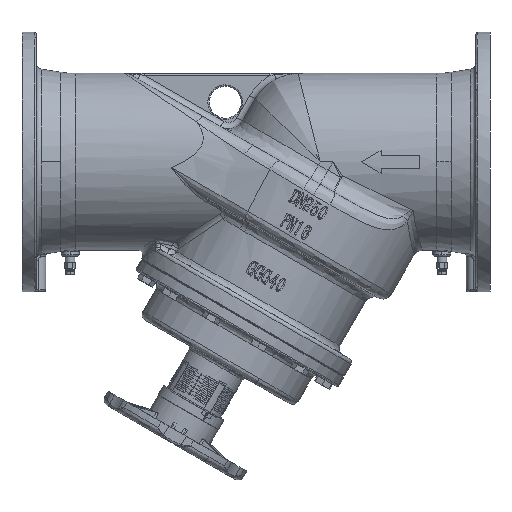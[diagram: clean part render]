
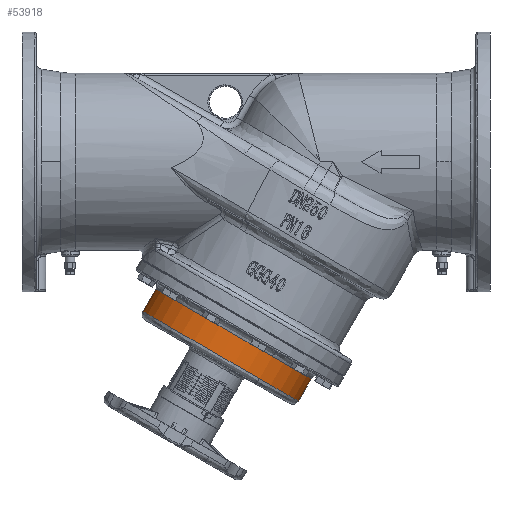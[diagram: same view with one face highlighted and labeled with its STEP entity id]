
A CAD part, front view. The second image highlights one B-rep face of the part: STEP entity #53918.
In plain terms, the highlighted cylindrical face has radius 140 mm (diameter 280 mm), a partial arc.
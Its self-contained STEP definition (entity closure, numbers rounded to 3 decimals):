
#1132 = DIRECTION ( 'NONE',  ( 0.866, 0., -0.5 ) ) ;
#22149 = CIRCLE ( 'NONE', #241825, 140. ) ;
#22217 = AXIS2_PLACEMENT_3D ( 'NONE', #281321, #75338, #280211 ) ;
#27751 = ORIENTED_EDGE ( 'NONE', *, *, #103261, .T. ) ;
#31356 = EDGE_CURVE ( 'NONE', #181069, #204085, #247571, .T. ) ;
#36290 = CARTESIAN_POINT ( 'NONE',  ( -228.801, -20.889, 527.064 ) ) ;
#37004 = AXIS2_PLACEMENT_3D ( 'NONE', #80980, #282604, #306965 ) ;
#42172 = CARTESIAN_POINT ( 'NONE',  ( -188.179, -142.133, 457.423 ) ) ;
#44632 = ORIENTED_EDGE ( 'NONE', *, *, #55653, .T. ) ;
#53918 = ADVANCED_FACE ( 'NONE', ( #235481 ), #239288, .T. ) ;
#55653 = EDGE_CURVE ( 'NONE', #301695, #278472, #195454, .T. ) ;
#59165 = ORIENTED_EDGE ( 'NONE', *, *, #257037, .F. ) ;
#63289 = EDGE_LOOP ( 'NONE', ( #59165, #27751, #312180, #220607, #44632, #225090 ) ) ;
#66802 = CARTESIAN_POINT ( 'NONE',  ( -127.557, -20.889, 422.423 ) ) ;
#67881 = DIRECTION ( 'NONE',  ( 0.5, 0., 0.866 ) ) ;
#68332 = AXIS2_PLACEMENT_3D ( 'NONE', #167549, #67881, #115513 ) ;
#75338 = DIRECTION ( 'NONE',  ( 0.5, 0., 0.866 ) ) ;
#80980 = CARTESIAN_POINT ( 'NONE',  ( -228.801, -20.889, 527.064 ) ) ;
#87267 = DIRECTION ( 'NONE',  ( -0.866, 0., 0.5 ) ) ;
#88846 = VECTOR ( 'NONE', #320205, 1000. ) ;
#90557 = DIRECTION ( 'NONE',  ( -0.5, 0., -0.866 ) ) ;
#103261 = EDGE_CURVE ( 'NONE', #137539, #181069, #22149, .T. ) ;
#114222 = CARTESIAN_POINT ( 'NONE',  ( -370.044, -20.889, 562.423 ) ) ;
#115513 = DIRECTION ( 'NONE',  ( 0.866, 0., -0.5 ) ) ;
#137539 = VERTEX_POINT ( 'NONE', #162118 ) ;
#149964 = CIRCLE ( 'NONE', #37004, 140. ) ;
#162118 = CARTESIAN_POINT ( 'NONE',  ( -370.044, -20.889, 562.423 ) ) ;
#163224 = VERTEX_POINT ( 'NONE', #292378 ) ;
#164305 = CARTESIAN_POINT ( 'NONE',  ( -168.179, -142.133, 492.064 ) ) ;
#167549 = CARTESIAN_POINT ( 'NONE',  ( -248.801, -20.889, 492.423 ) ) ;
#181069 = VERTEX_POINT ( 'NONE', #42172 ) ;
#188697 = VECTOR ( 'NONE', #243941, 1000. ) ;
#195454 = CIRCLE ( 'NONE', #276430, 140. ) ;
#204085 = VERTEX_POINT ( 'NONE', #289718 ) ;
#211472 = CARTESIAN_POINT ( 'NONE',  ( -107.557, -20.889, 457.064 ) ) ;
#212516 = LINE ( 'NONE', #66802, #188697 ) ;
#220607 = ORIENTED_EDGE ( 'NONE', *, *, #271806, .T. ) ;
#225090 = ORIENTED_EDGE ( 'NONE', *, *, #267213, .T. ) ;
#232618 = DIRECTION ( 'NONE',  ( 0.5, 0., 0.866 ) ) ;
#235481 = FACE_OUTER_BOUND ( 'NONE', #63289, .T. ) ;
#239288 = CYLINDRICAL_SURFACE ( 'NONE', #68332, 140. ) ;
#241825 = AXIS2_PLACEMENT_3D ( 'NONE', #282506, #232618, #1132 ) ;
#243941 = DIRECTION ( 'NONE',  ( 0.5, 0., 0.866 ) ) ;
#247407 = LINE ( 'NONE', #114222, #88846 ) ;
#247571 = CIRCLE ( 'NONE', #22217, 140. ) ;
#257037 = EDGE_CURVE ( 'NONE', #137539, #163224, #247407, .T. ) ;
#267213 = EDGE_CURVE ( 'NONE', #278472, #163224, #149964, .T. ) ;
#271806 = EDGE_CURVE ( 'NONE', #204085, #301695, #212516, .T. ) ;
#276430 = AXIS2_PLACEMENT_3D ( 'NONE', #36290, #90557, #87267 ) ;
#278472 = VERTEX_POINT ( 'NONE', #164305 ) ;
#280211 = DIRECTION ( 'NONE',  ( 0.866, 0., -0.5 ) ) ;
#281321 = CARTESIAN_POINT ( 'NONE',  ( -248.801, -20.889, 492.423 ) ) ;
#282506 = CARTESIAN_POINT ( 'NONE',  ( -248.801, -20.889, 492.423 ) ) ;
#282604 = DIRECTION ( 'NONE',  ( -0.5, 0., -0.866 ) ) ;
#289718 = CARTESIAN_POINT ( 'NONE',  ( -127.557, -20.889, 422.423 ) ) ;
#292378 = CARTESIAN_POINT ( 'NONE',  ( -350.044, -20.889, 597.064 ) ) ;
#301695 = VERTEX_POINT ( 'NONE', #211472 ) ;
#306965 = DIRECTION ( 'NONE',  ( -0.866, 0., 0.5 ) ) ;
#312180 = ORIENTED_EDGE ( 'NONE', *, *, #31356, .T. ) ;
#320205 = DIRECTION ( 'NONE',  ( 0.5, 0., 0.866 ) ) ;
